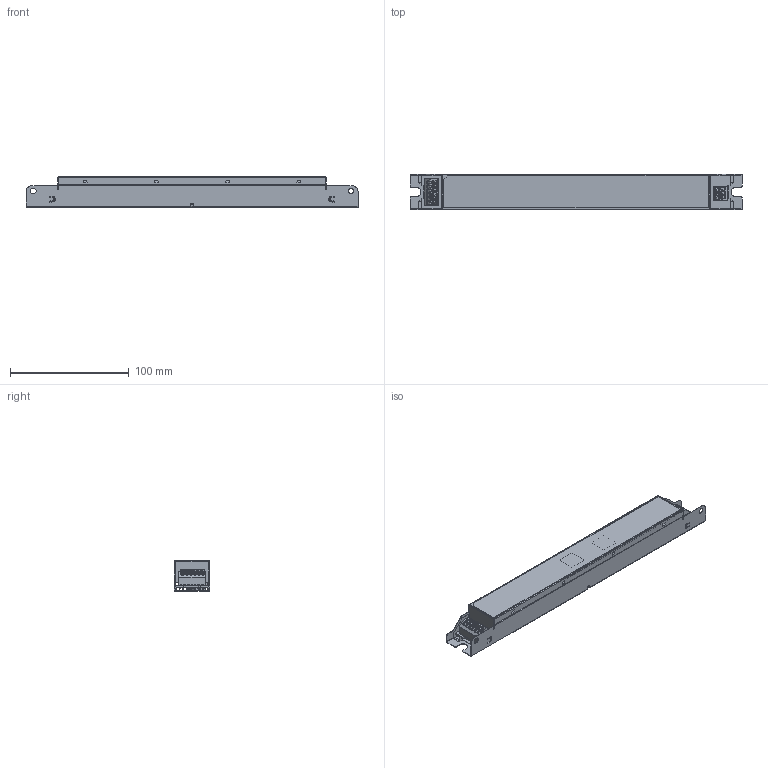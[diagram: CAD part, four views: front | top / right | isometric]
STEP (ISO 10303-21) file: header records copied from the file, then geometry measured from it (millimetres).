
FILE_DESCRIPTION((''),'2;1');
FILE_NAME('ASSY-2CHANNEL_ASM','2020-01-21T',('JACKY.LEE'),(''),'PRO/ENGINEER BY PARAMETRIC TECHNOLOGY CORPORATION, 2009440','PRO/ENGINEER BY PARAMETRIC TECHNOLOGY CORPORATION, 2009440','');
FILE_SCHEMA(('CONFIG_CONTROL_DESIGN'));
Length unit declared in the file: millimetre
Products named in the file (46): BASE; COVER; PWB; 250-206; CB; PIN_HEADER-307354158R; SUB-CB_ASSY_ASM; C102; L101; J102; PTC1; C101; T1; CY1; HS1_3347961500; HS1_PIN1; HS1_PIN2; HS1_3347961500_ASM; Q1; SCREW_I-M3-7L-ZN; C3; L1; J5; Z3; CX1; FL1; F1; CY2; JUMP-WIRE_0_8-P7_5; CNT_WAGO_250-203; IC100; R102; R101; Q102; D101; D100; D100A; IC1; R11; R10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
Assembly tree (46 placements, depth 4):
  ASSY-2CHANNEL_ASM
    BASE
    COVER
    PWB-ASSY_ASM
      PWB
      250-206
      SUB-CB_ASSY_ASM
        CB
        PIN_HEADER-307354158R
      C102
      L101
      J102
      PTC1
      C101
      T1
      CY1
      HS1_3347961500_ASM
        HS1_3347961500
        HS1_PIN1
        HS1_PIN2
      Q1
      SCREW_I-M3-7L-ZN
      C3
      L1
      J5
      Z3
      CX1
      FL1
      F1
      CY2
      JUMP-WIRE_0_8-P7_5
      CNT_WAGO_250-203
      IC100
      R102
      R101
      Q102
      D101
      D100
      D100A
      IC1
      R11
      R10
      BD1
    MYLAR
    LABEL
    THERMAL_PAD_3247000100  x2
Bounding box: 280 x 30 x 25.48 mm (x, y, z)
Volume: 73999.6 mm3; surface area: 166704.7 mm2
Topology: 47 solids, 47 shells, 1566 faces, 3988 edges, 2546 vertices
Faces by surface type: plane 1164, cylinder 314, bspline 48, torus 22, cone 18
Entity records: 49043 total; most frequent: CARTESIAN_POINT 10043, ORIENTED_EDGE 7934, DIRECTION 7818, EDGE_CURVE 3967, VECTOR 3196, LINE 3196, VERTEX_POINT 2538, AXIS2_PLACEMENT_3D 2311
